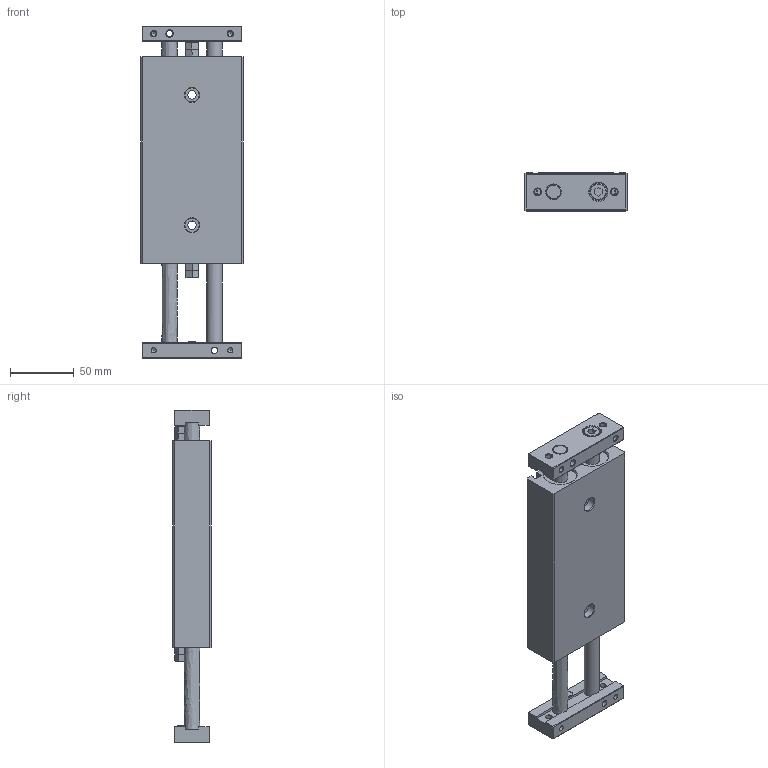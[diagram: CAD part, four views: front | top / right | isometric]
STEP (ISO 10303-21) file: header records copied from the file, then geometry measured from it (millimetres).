
FILE_DESCRIPTION((''),'2;1');
FILE_NAME('I:\3D電子目錄\氣缸\STX\STX\STX25\STX25x50.stp','2007-10-02T09:07:42',('Administrator'),(''),'Autodesk Inventor 11','Autodesk Inventor 11','');
FILE_SCHEMA(('AUTOMOTIVE_DESIGN { 1 0 10303 214 1 1 1 1 }'));
Length unit declared in the file: millimetre
Products named in the file (1): STX25
Bounding box: 80 x 30 x 260 mm (x, y, z)
Volume: 431911.6 mm3; surface area: 72816.9 mm2
Topology: 1 solids, 1 shells, 274 faces, 653 edges, 406 vertices
Faces by surface type: plane 127, cone 75, bspline 46, cylinder 22, torus 4
Full cylindrical faces by diameter (mm): 4.134 x4, 6 x2, 11 x2, 12 x4, 12.2 x2, 13 x2, 14 x2, 26 x2, 27.4 x2
Entity records: 8035 total; most frequent: CARTESIAN_POINT 2555, ORIENTED_EDGE 1058, DIRECTION 1056, EDGE_CURVE 529, EDGE_LOOP 420, AXIS2_PLACEMENT_3D 402, VERTEX_POINT 373, FACE_OUTER_BOUND 274
